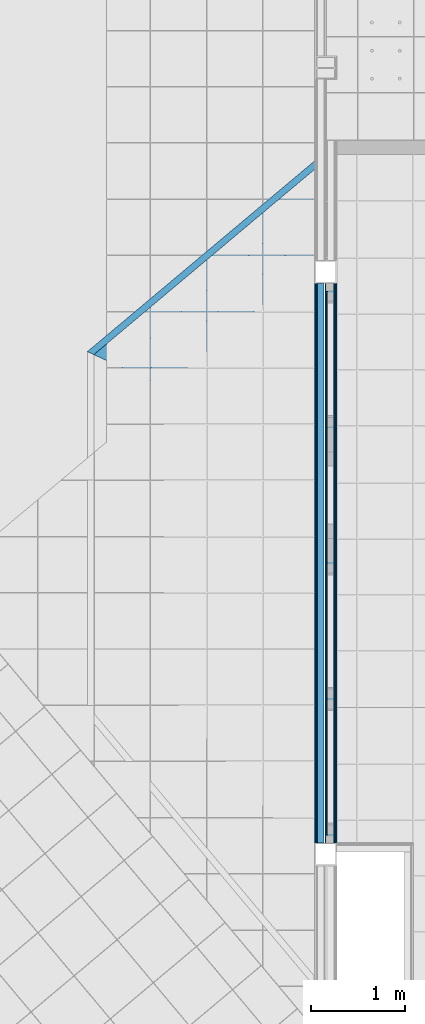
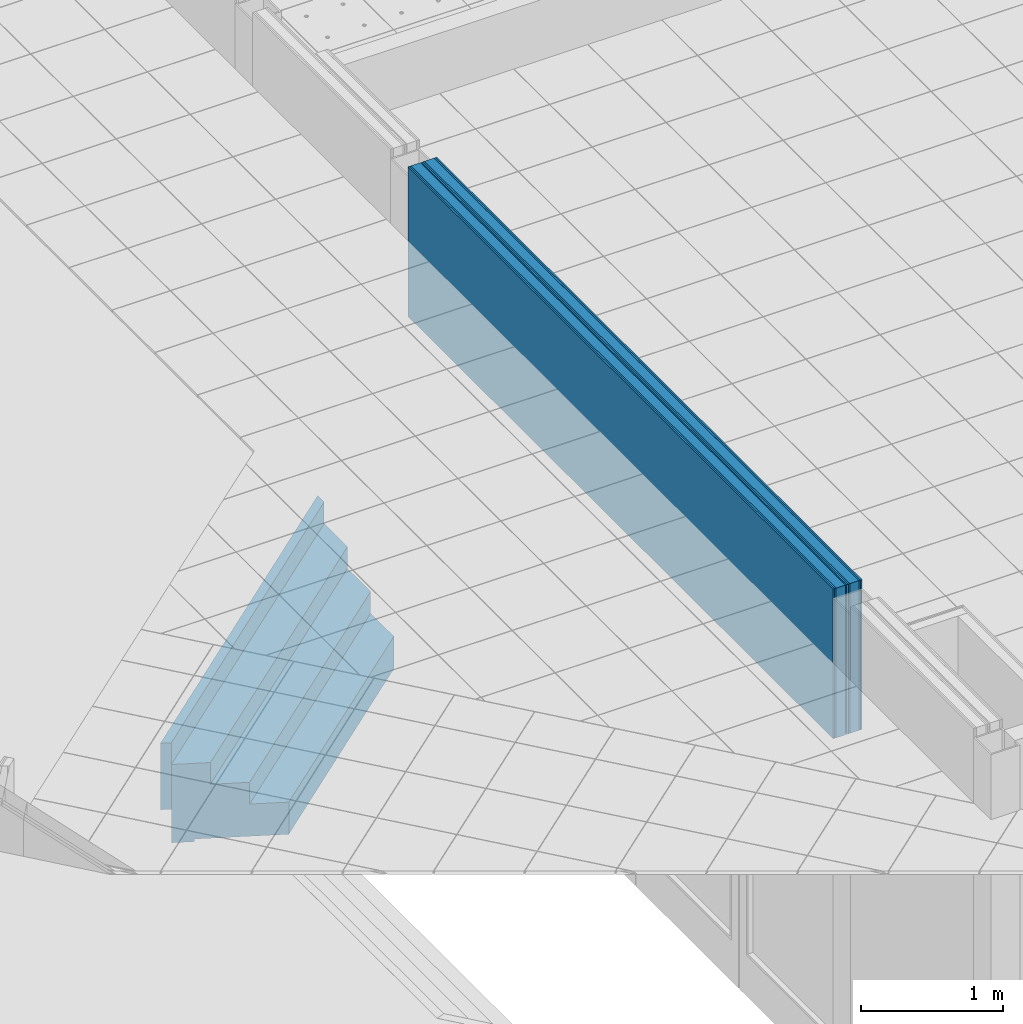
# One storey, part 72 of 338: 10 building element parts, 2 openings, 3 elements without a shape of their own.
"""IFC2X3 building model written with IfcOpenShell, lengths in millimetres."""

from ifc_helpers import new_model, entity, si_unit, converted_unit, derived_unit, money_unit, direction, frame, origin_with_axes, place, context, subcontext, project, spatial, faceted_brep, material, type_object, element, aggregate, save


model = new_model("IFC2X3")

# Units and contexts
model_context = context("Model", 3, precision=0.01, world=origin_with_axes(), true_north=direction((0.0, 1.0)))
plan_context = context("Plan", 3, precision=0.01, world=origin_with_axes(), true_north=direction((0.0, 1.0)))
body_context = subcontext(model_context, "Body", "Model", "MODEL_VIEW")
ifc_project = project(units=[si_unit("LENGTHUNIT", "METRE", prefix="MILLI"), si_unit("AREAUNIT", "SQUARE_METRE"), si_unit("VOLUMEUNIT", "CUBIC_METRE"), converted_unit("PLANEANGLEUNIT", "DEGREE", entity("IfcPlaneAngleMeasure", 0.0174532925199), si_unit("PLANEANGLEUNIT", "RADIAN"), dimensions=[0, 0, 0, 0, 0, 0, 0]), money_unit("EUR"), converted_unit("TIMEUNIT", "Year", entity("IfcTimeMeasure", 31556926.0), si_unit("TIMEUNIT", "SECOND"), dimensions=[0, 0, 1, 0, 0, 0, 0]), si_unit("MASSUNIT", "GRAM", prefix="KILO"), si_unit("THERMODYNAMICTEMPERATUREUNIT", "DEGREE_CELSIUS"), si_unit("LUMINOUSINTENSITYUNIT", "LUMEN"), si_unit("ENERGYUNIT", "JOULE", prefix="MEGA"), derived_unit("THERMALCONDUCTANCEUNIT", [(si_unit("POWERUNIT", "WATT"), 1), (si_unit("LENGTHUNIT", "METRE"), -1), (si_unit("THERMODYNAMICTEMPERATUREUNIT", "KELVIN"), -1)]), derived_unit("SPECIFICHEATCAPACITYUNIT", [(si_unit("ENERGYUNIT", "JOULE"), 1), (si_unit("MASSUNIT", "GRAM", prefix="KILO"), -1), (si_unit("THERMODYNAMICTEMPERATUREUNIT", "KELVIN"), -1)]), derived_unit("MASSDENSITYUNIT", [(si_unit("MASSUNIT", "GRAM", prefix="KILO"), 1), (si_unit("VOLUMEUNIT", "CUBIC_METRE"), -1)])], contexts=[model_context, plan_context])

# Site, building, storey
site_placement = place(None, origin_with_axes())
site = spatial("IfcSite", under=ifc_project, at=site_placement, Name="Fortuinstraat Woensdrecht", CompositionType="ELEMENT")
building_placement = place(site_placement, origin_with_axes())
building = spatial("IfcBuilding", under=site, at=building_placement, Name="IKC Fortuna", CompositionType="ELEMENT")
storey_placement = place(building_placement, origin_with_axes())
storey = spatial("IfcBuildingStorey", under=building, at=storey_placement, Name="00 begane grond", CompositionType="ELEMENT", Elevation=0.0)

# Wall, opening, building element parts
wall_type_1 = type_object("IfcWallType", Name="MS125 2.75.2A 125", PredefinedType="NOTDEFINED")
wall_1_placement = place(storey_placement, frame((25607.9349765, 9814.79662827, -835.0), z_axis=(0.0, 0.0, 1.0), x_axis=(0.0, -1.0, 0.0)))
wall_1 = element("IfcWall", 1, at=wall_1_placement, inside=storey, type_object=wall_type_1, Name="22_Wand_Binnenwand")
opening_1_placement = place(wall_1_placement, frame((9814.79662827, -25607.9349765, 835.0), z_axis=(0.0, 0.0, 1.0), x_axis=(0.0, 1.0, 0.0)))
element("IfcOpeningElement", 2, at=opening_1_placement, cuts=wall_1, Name="_Lege opening_Opening-x", context=body_context, shape_type="Brep", body=[
    faceted_brep([(25482.9349765, 9814.79662827, -1498.0), (25482.9349765, 9814.79662827, 2367.0), (25857.9349765, 9814.79662827, 2367.0), (25857.9349765, 9814.79662827, -1498.0), (25482.9349765, 3844.79662827, -1498.0), (25482.9349765, 3844.79662827, 2367.0), (25857.9349765, 3844.79662827, 2367.0), (25857.9349765, 3844.79662827, -1498.0)], [[[0, 1, 2, 3]], [[0, 4, 5, 1]], [[1, 5, 6, 2]], [[3, 2, 6, 7]], [[4, 0, 3, 7]], [[5, 4, 7, 6]]]),
])
ifc_material_1 = material(Name="Gipsplaat")
building_element_part_1_placement = place(wall_1_placement, origin_with_axes())
building_element_part_1 = element("IfcBuildingElementPart", 3, at=building_element_part_1_placement, material=ifc_material_1, Name="Gipsplaat", context=body_context, shape_type="Brep", body=[
    faceted_brep([(5970.0, 125.0, 3202.0), (0.0, 125.0, 3202.0), (0.0, 125.0, 4485.0), (5970.0, 125.0, 4485.0), (0.0, 112.5, 3202.0), (5970.0, 112.5, 3202.0), (0.0, 112.5, 4485.0), (5970.0, 112.5, 4485.0)], [[[0, 1, 2, 3]], [[4, 1, 0, 5]], [[1, 4, 6, 2]], [[6, 7, 3, 2]], [[5, 0, 3, 7]], [[4, 5, 7, 6]]]),
])
building_element_part_2_placement = place(wall_1_placement, origin_with_axes())
building_element_part_2 = element("IfcBuildingElementPart", 4, at=building_element_part_2_placement, material=ifc_material_1, Name="Gipsplaat", context=body_context, shape_type="Brep", body=[
    faceted_brep([(5970.0, 112.5, 3202.0), (0.0, 112.5, 3202.0), (0.0, 112.5, 4485.0), (5970.0, 112.5, 4485.0), (0.0, 100.0, 3202.0), (5970.0, 100.0, 3202.0), (0.0, 100.0, 4485.0), (5970.0, 100.0, 4485.0)], [[[0, 1, 2, 3]], [[4, 1, 0, 5]], [[1, 4, 6, 2]], [[6, 7, 3, 2]], [[5, 0, 3, 7]], [[4, 5, 7, 6]]]),
])
ifc_material_2 = material(Name="Isolatie - Steenwol LSW")
building_element_part_3_placement = place(wall_1_placement, origin_with_axes())
building_element_part_3 = element("IfcBuildingElementPart", 5, at=building_element_part_3_placement, material=ifc_material_2, Name="Isolatie - Steenwol LSW", context=body_context, shape_type="Brep", body=[
    faceted_brep([(5970.0, 100.0, 3202.0), (0.0, 100.0, 3202.0), (0.0, 100.0, 4485.0), (5970.0, 100.0, 4485.0), (0.0, 25.0, 3202.0), (5970.0, 25.0, 3202.0), (0.0, 25.0, 4485.0), (5970.0, 25.0, 4485.0)], [[[0, 1, 2, 3]], [[4, 1, 0, 5]], [[1, 4, 6, 2]], [[6, 7, 3, 2]], [[5, 0, 3, 7]], [[4, 5, 7, 6]]]),
])
building_element_part_4_placement = place(wall_1_placement, origin_with_axes())
building_element_part_4 = element("IfcBuildingElementPart", 6, at=building_element_part_4_placement, material=ifc_material_1, Name="Gipsplaat", context=body_context, shape_type="Brep", body=[
    faceted_brep([(5970.0, 25.0, 3202.0), (0.0, 25.0, 3202.0), (0.0, 25.0, 4485.0), (5970.0, 25.0, 4485.0), (0.0, 12.5, 3202.0), (5970.0, 12.5, 3202.0), (0.0, 12.5, 4485.0), (5970.0, 12.5, 4485.0)], [[[0, 1, 2, 3]], [[4, 1, 0, 5]], [[1, 4, 6, 2]], [[6, 7, 3, 2]], [[5, 0, 3, 7]], [[4, 5, 7, 6]]]),
])
building_element_part_5_placement = place(wall_1_placement, origin_with_axes())
building_element_part_5 = element("IfcBuildingElementPart", 7, at=building_element_part_5_placement, material=ifc_material_1, Name="Gipsplaat", context=body_context, shape_type="Brep", body=[
    faceted_brep([(5970.0, 12.5, 3202.0), (0.0, 12.5, 3202.0), (0.0, 12.5, 4485.0), (5970.0, 12.5, 4485.0), (0.0, 0.0, 3202.0), (5970.0, 0.0, 3202.0), (0.0, 0.0, 4485.0), (5970.0, 0.0, 4485.0)], [[[0, 1, 2, 3]], [[4, 1, 0, 5]], [[1, 4, 6, 2]], [[6, 7, 3, 2]], [[5, 0, 3, 7]], [[4, 5, 7, 6]]]),
])
aggregate(wall_1, [building_element_part_1, building_element_part_2, building_element_part_3, building_element_part_4, building_element_part_5])

# Stair, building element parts
stair_placement = place(storey_placement, frame((25544.4237819, 10091.8682285, -835.0), z_axis=(0.0, 0.0, 1.0), x_axis=(-0.642787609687, 0.766044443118, 0.0)))
stair = element("IfcStair", 8, at=stair_placement, inside=storey, Name="24_Trap_Traptreden beton", ShapeType="NOTDEFINED")
ifc_material_3 = material(Name="Beton gewapend C")
building_element_part_6_placement = place(stair_placement, origin_with_axes())
building_element_part_6 = element("IfcBuildingElementPart", 9, at=building_element_part_6_placement, material=ifc_material_3, Name="Beton gewapend C", context=body_context, shape_type="Brep", body=[
    faceted_brep([(750.000004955, -629.318378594, 265.000000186), (750.000004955, 2507.91370213, 265.000000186), (820.0, 2540.55523589, 265.000000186), (820.0, -688.054756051, 265.000000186), (750.000004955, -629.318378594, 648.749995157), (750.000004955, 2507.91370213, 648.749995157), (750.000004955, 2507.91370213, 835.0), (820.0, 2540.55523589, 835.0), (820.0, -688.054756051, 835.0), (750.000004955, -629.318378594, 835.0)], [[[0, 1, 2, 3]], [[4, 5, 1, 0]], [[2, 1, 5, 6, 7]], [[3, 2, 7, 8]], [[4, 0, 3, 8, 9]], [[9, 6, 5, 4]], [[8, 7, 6, 9]]]),
])
building_element_part_7_placement = place(stair_placement, origin_with_axes())
building_element_part_7 = element("IfcBuildingElementPart", 10, at=building_element_part_7_placement, material=ifc_material_3, Name="Beton gewapend C", context=body_context, shape_type="Brep", body=[
    faceted_brep([(0.0, 0.0, 0.0), (750.000000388, -629.318374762, 0.0), (750.000004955, -629.318378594, 265.000000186), (750.0, -629.318374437, 648.75), (500.0, -419.545582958, 648.75), (500.0, -419.545582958, 462.5), (250.0, -209.772791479, 462.5), (250.0, -209.772791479, 276.25), (0.0, 0.0, 276.25), (750.000000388, -395.671477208, 0.0), (0.0, 2158.1829562, 0.0), (601.724744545, 2438.77181269, 0.0), (738.545921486, 2323.96521358, 0.0), (738.545938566, -386.060378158, 0.0), (750.0, -395.671476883, -22.5), (750.0, 2507.91369982, -22.5), (750.000004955, 2507.91370213, 265.000000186), (750.0, 2507.91369982, 648.75), (500.0, 2391.33678528, 648.75), (500.0, 2391.33678528, 462.5), (250.0, 2274.75987074, 462.5), (250.0, 2274.75987074, 276.25), (0.0, 2158.1829562, 276.25), (601.724744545, 2438.77181269, -22.5), (738.545921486, 2323.96521358, -22.5), (738.545938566, -386.060378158, -22.5)], [[[0, 1, 2, 3, 4, 5, 6, 7, 8]], [[9, 1, 0, 10, 11, 12, 13]], [[9, 14, 15, 16, 2, 1]], [[2, 16, 17, 3]], [[3, 17, 18, 4]], [[4, 18, 19, 5]], [[5, 19, 20, 6]], [[6, 20, 21, 7]], [[7, 21, 22, 8]], [[10, 0, 8, 22]], [[11, 10, 22, 21, 20, 19, 18, 17, 16, 15, 23]], [[23, 24, 12, 11]], [[24, 25, 13, 12]], [[14, 9, 13, 25]], [[24, 23, 15, 14, 25]]]),
])
aggregate(stair, [building_element_part_6, building_element_part_7])

# Wall, opening, building element parts
wall_type_2 = type_object("IfcWallType", Name="MS100 75.2A 100", PredefinedType="NOTDEFINED")
wall_2_placement = place(storey_placement, frame((25497.9349765, 9814.79662827, -835.0), z_axis=(0.0, 0.0, 1.0), x_axis=(0.0, -1.0, 0.0)))
wall_2 = element("IfcWall", 11, at=wall_2_placement, inside=storey, type_object=wall_type_2, Name="22_Wand_Binnenwand")
opening_2_placement = place(wall_2_placement, frame((9814.79662827, -25497.9349765, 835.0), z_axis=(0.0, 0.0, 1.0), x_axis=(0.0, 1.0, 0.0)))
element("IfcOpeningElement", 12, at=opening_2_placement, cuts=wall_2, Name="_Lege opening_Opening-x", context=body_context, shape_type="Brep", body=[
    faceted_brep([(25397.9349765, 9814.7966765, -1498.0), (25397.9349765, 9814.7966765, 2367.0), (25697.9349765, 9814.7966765, 2367.0), (25697.9349765, 9814.7966765, -1498.0), (25397.9349765, 3844.7966765, -1498.0), (25397.9349765, 3844.7966765, 2367.0), (25697.9349765, 3844.7966765, 2367.0), (25697.9349765, 3844.7966765, -1498.0)], [[[0, 1, 2, 3]], [[0, 4, 5, 1]], [[1, 5, 6, 2]], [[3, 2, 6, 7]], [[4, 0, 3, 7]], [[5, 4, 7, 6]]]),
])
building_element_part_8_placement = place(wall_2_placement, origin_with_axes())
building_element_part_8 = element("IfcBuildingElementPart", 13, at=building_element_part_8_placement, material=ifc_material_2, Name="Isolatie - Steenwol LSW", context=body_context, shape_type="Brep", body=[
    faceted_brep([(5969.99995177, 100.0, 3202.0), (-4.82310760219e-05, 100.0, 3202.0), (0.0, 100.0, 4485.0), (5970.0, 100.0, 4485.0), (-4.82310760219e-05, 25.0, 3202.0), (5969.99995177, 25.0, 3202.0), (0.0, 25.0, 4485.0), (5970.0, 25.0, 4485.0)], [[[0, 1, 2, 3]], [[4, 1, 0, 5]], [[1, 4, 6, 2]], [[6, 7, 3, 2]], [[5, 0, 3, 7]], [[4, 5, 7, 6]]]),
])
building_element_part_9_placement = place(wall_2_placement, origin_with_axes())
building_element_part_9 = element("IfcBuildingElementPart", 14, at=building_element_part_9_placement, material=ifc_material_1, Name="Gipsplaat", context=body_context, shape_type="Brep", body=[
    faceted_brep([(5969.99995177, 25.0, 3202.0), (-4.82310760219e-05, 25.0, 3202.0), (0.0, 25.0, 4485.0), (5970.0, 25.0, 4485.0), (-4.82310760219e-05, 12.5, 3202.0), (5969.99995177, 12.5, 3202.0), (0.0, 12.5, 4485.0), (5970.0, 12.5, 4485.0)], [[[0, 1, 2, 3]], [[4, 1, 0, 5]], [[1, 4, 6, 2]], [[6, 7, 3, 2]], [[5, 0, 3, 7]], [[4, 5, 7, 6]]]),
])
building_element_part_10_placement = place(wall_2_placement, origin_with_axes())
building_element_part_10 = element("IfcBuildingElementPart", 15, at=building_element_part_10_placement, material=ifc_material_1, Name="Gipsplaat", context=body_context, shape_type="Brep", body=[
    faceted_brep([(5969.99995177, 12.5, 3202.0), (-4.82310760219e-05, 12.5, 3202.0), (0.0, 12.5, 4485.0), (5970.0, 12.5, 4485.0), (-4.82310760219e-05, 0.0, 3202.0), (5969.99995177, 0.0, 3202.0), (0.0, 0.0, 4485.0), (5970.0, 0.0, 4485.0)], [[[0, 1, 2, 3]], [[4, 1, 0, 5]], [[1, 4, 6, 2]], [[6, 7, 3, 2]], [[5, 0, 3, 7]], [[4, 5, 7, 6]]]),
])
aggregate(wall_2, [building_element_part_8, building_element_part_9, building_element_part_10])

save(model, "model.ifc")
